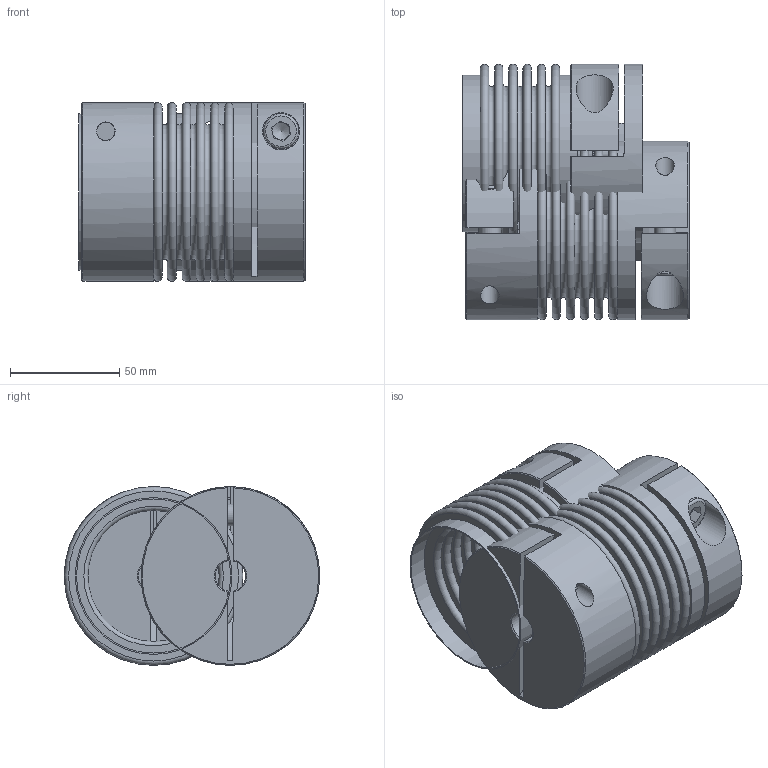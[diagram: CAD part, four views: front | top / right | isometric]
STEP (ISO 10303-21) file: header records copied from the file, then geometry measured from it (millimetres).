
FILE_DESCRIPTION( ( 'Unknown' ), '1' );
FILE_NAME( 'C:/Dokumente und Einstellungen/Sven/Desktop/cad - homepage/KB4/KB4-80-102.stp', 'Unknown', ( 'Unknown' ), ( 'Unknown' ), 'XStep 1.0', 'Unknown', ' ' );
FILE_SCHEMA( ( 'automotive_design' ) );
Length unit declared in the file: millimetre
Products named in the file (4): Assem1; KN80-150_Standard_2; Socket Head Cap Screw_DIN_DIN 912 M10 x 30 --- 30N_2; BL80-150_Standard_1
Bounding box: 103.69 x 117.22 x 82 mm (x, y, z)
Volume: 510678.9 mm3; surface area: 226214.4 mm2
Topology: 8 solids, 8 shells, 236 faces, 483 edges, 317 vertices
Faces by surface type: plane 133, torus 50, cylinder 38, cone 15
Full cylindrical faces by diameter (mm): 8.5 x3, 10 x9, 14 x3, 16 x3, 17 x3, 70.7 x4, 71.9 x4, 82 x3
Entity records: 2662 total; most frequent: CARTESIAN_POINT 536, DIRECTION 425, ORIENTED_EDGE 282, AXIS2_PLACEMENT_3D 191, EDGE_LOOP 168, EDGE_CURVE 141, FACE_OUTER_BOUND 132, VERTEX_POINT 116
